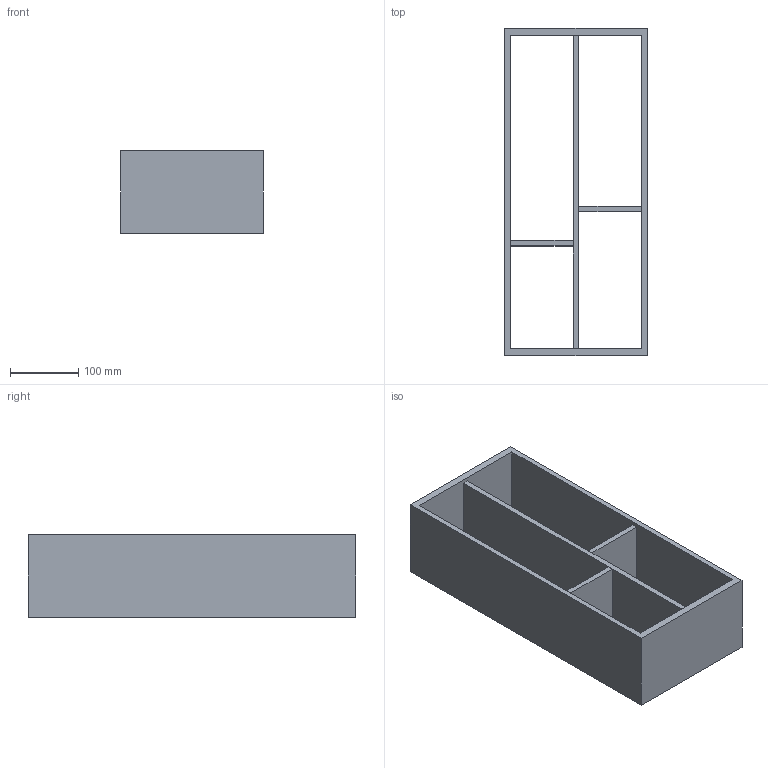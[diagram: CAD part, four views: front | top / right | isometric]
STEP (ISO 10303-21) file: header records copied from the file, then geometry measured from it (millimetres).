
FILE_DESCRIPTION (( 'STEP AP214' ), '1' );
FILE_NAME ('Vario Multi H120 NL500_B300_16 mm_Alu-Buche.step', '2010-10-08T09:47:28', ( 'grass' ), ( '' ), 'SwSTEP 2.0', 'SolidWorks 2010', '' );
FILE_SCHEMA (( 'AUTOMOTIVE_DESIGN' ));
Length unit declared in the file: millimetre
Products named in the file (1): Vario Multi H120 NL500_B300_16 mm_Alu-Buche
Bounding box: 208 x 479 x 120 mm (x, y, z)
Volume: 2011071.3 mm3; surface area: 495328.9 mm2
Topology: 1 solids, 1 shells, 22 faces, 60 edges, 40 vertices
Faces by surface type: plane 22
Entity records: 734 total; most frequent: CARTESIAN_POINT 123, ORIENTED_EDGE 120, DIRECTION 106, EDGE_CURVE 60, LINE 60, VECTOR 60, VERTEX_POINT 40, EDGE_LOOP 30
